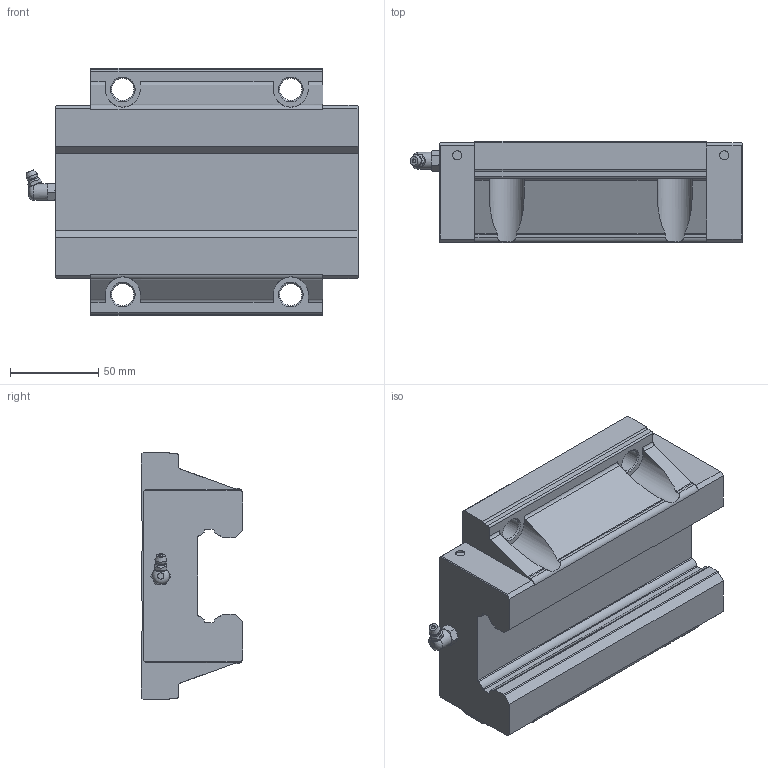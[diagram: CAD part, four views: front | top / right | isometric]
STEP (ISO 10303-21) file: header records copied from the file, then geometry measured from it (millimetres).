
FILE_DESCRIPTION(/* description */ ('STEP AP203'),/* implementation_level */ '2;1');
FILE_NAME(/* name */ 'SHS55C1SS(GK) BLOCK(B-PT1_81)',/* time_stamp */ '2024-05-14T03:37:14+02:00',/* author */ ('License CC BY-ND 4.0'),/* organization */ ('CADENAS'),/* preprocessor_version */ 'ST-DEVELOPER v19.3',/* originating_system */ 'PARTsolutions',/* authorisation */ ' ');
FILE_SCHEMA (('CONFIG_CONTROL_DESIGN'));
Length unit declared in the file: millimetre
Products named in the file (3): SHS55C1SS(GK) BLOCK(B-PT1/81); SHS55CSSB-PT1/81 Slide25-55; B-PT1/8-SHS_grease_nipple_joint
Assembly tree (2 placements, depth 2):
  SHS55C1SS(GK) BLOCK(B-PT1/81)
    SHS55CSSB-PT1/81 Slide25-55
    B-PT1/8-SHS_grease_nipple_joint
Bounding box: 187.7 x 57.3 x 140 mm (x, y, z)
Volume: 892306.7 mm3; surface area: 86901.9 mm2
Topology: 2 solids, 2 shells, 171 faces, 468 edges, 307 vertices
Faces by surface type: plane 99, cylinder 47, cone 20, torus 3, sphere 2
Full cylindrical faces by diameter (mm): 5.2 x4, 9.6 x1, 12.5 x4
Entity records: 5294 total; most frequent: CARTESIAN_POINT 1075, DIRECTION 848, ORIENTED_EDGE 834, EDGE_CURVE 417, AXIS2_PLACEMENT_3D 296, VERTEX_POINT 292, LINE 256, VECTOR 256
